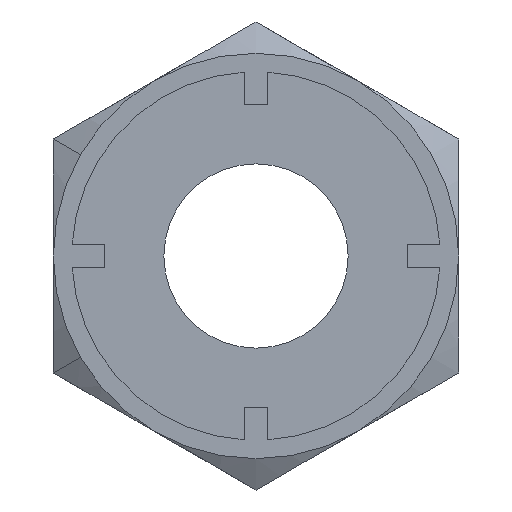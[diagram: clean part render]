
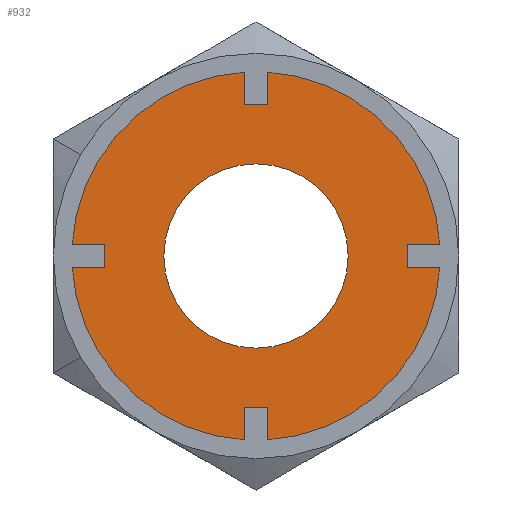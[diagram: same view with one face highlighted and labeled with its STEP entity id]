
A CAD part, left-side view. The second image highlights one B-rep face of the part: STEP entity #932.
In plain terms, the highlighted planar face has unit normal (-1, 0, 0).
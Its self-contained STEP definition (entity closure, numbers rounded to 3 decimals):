
#130=CARTESIAN_POINT('',(-19.0,0.,5.0));
#131=VERTEX_POINT('',#130);
#140=CARTESIAN_POINT('',(-19.0,5.0,0.0));
#141=VERTEX_POINT('',#140);
#142=CARTESIAN_POINT('',(-19.0,0.0,0.0));
#143=DIRECTION('',(1.0,0.0,0.0));
#144=DIRECTION('',(0.0,1.0,0.0));
#145=AXIS2_PLACEMENT_3D('',#142,#143,#144);
#146=CIRCLE('',#145,5.0);
#147=EDGE_CURVE('',#141,#131,#146,.T.);
#332=CARTESIAN_POINT('',(-19.0,0.,-5.0));
#333=VERTEX_POINT('',#332);
#342=CARTESIAN_POINT('',(-19.0,-5.0,0.));
#343=VERTEX_POINT('',#342);
#344=CARTESIAN_POINT('',(-19.0,0.0,0.0));
#345=DIRECTION('',(1.0,0.0,0.0));
#346=DIRECTION('',(0.0,1.0,0.0));
#347=AXIS2_PLACEMENT_3D('',#344,#345,#346);
#348=CIRCLE('',#347,5.0);
#349=EDGE_CURVE('',#343,#333,#348,.T.);
#383=CARTESIAN_POINT('',(-19.0,0.0,0.0));
#384=DIRECTION('',(1.0,0.0,0.0));
#385=DIRECTION('',(0.0,1.0,0.0));
#386=AXIS2_PLACEMENT_3D('',#383,#384,#385);
#387=CIRCLE('',#386,5.0);
#388=EDGE_CURVE('',#333,#141,#387,.T.);
#400=CARTESIAN_POINT('',(-19.0,9.979,0.65));
#401=VERTEX_POINT('',#400);
#416=CARTESIAN_POINT('',(-19.0,8.2,0.65));
#417=VERTEX_POINT('',#416);
#424=CARTESIAN_POINT('',(-19.0,9.979,0.65));
#425=DIRECTION('',(0.0,-1.0,0.0));
#426=VECTOR('',#425,1.779);
#427=LINE('',#424,#426);
#428=EDGE_CURVE('',#401,#417,#427,.T.);
#438=CARTESIAN_POINT('',(-19.0,9.979,-0.65));
#439=VERTEX_POINT('',#438);
#448=CARTESIAN_POINT('',(-19.0,8.2,-0.65));
#449=VERTEX_POINT('',#448);
#450=CARTESIAN_POINT('',(-19.0,8.2,-0.65));
#451=DIRECTION('',(0.0,1.0,0.0));
#452=VECTOR('',#451,1.779);
#453=LINE('',#450,#452);
#454=EDGE_CURVE('',#449,#439,#453,.T.);
#485=CARTESIAN_POINT('',(-19.0,8.2,0.65));
#486=DIRECTION('',(0.0,0.0,-1.0));
#487=VECTOR('',#486,1.3);
#488=LINE('',#485,#487);
#489=EDGE_CURVE('',#417,#449,#488,.T.);
#502=CARTESIAN_POINT('',(-19.0,-0.65,9.979));
#503=VERTEX_POINT('',#502);
#518=CARTESIAN_POINT('',(-19.0,-0.65,8.2));
#519=VERTEX_POINT('',#518);
#526=CARTESIAN_POINT('',(-19.0,-0.65,9.979));
#527=DIRECTION('',(0.0,0.0,-1.0));
#528=VECTOR('',#527,1.779);
#529=LINE('',#526,#528);
#530=EDGE_CURVE('',#503,#519,#529,.T.);
#540=CARTESIAN_POINT('',(-19.0,0.65,9.979));
#541=VERTEX_POINT('',#540);
#550=CARTESIAN_POINT('',(-19.0,0.65,8.2));
#551=VERTEX_POINT('',#550);
#552=CARTESIAN_POINT('',(-19.0,0.65,8.2));
#553=DIRECTION('',(0.0,0.0,1.0));
#554=VECTOR('',#553,1.779);
#555=LINE('',#552,#554);
#556=EDGE_CURVE('',#551,#541,#555,.T.);
#587=CARTESIAN_POINT('',(-19.0,-0.65,8.2));
#588=DIRECTION('',(0.0,1.0,0.0));
#589=VECTOR('',#588,1.3);
#590=LINE('',#587,#589);
#591=EDGE_CURVE('',#519,#551,#590,.T.);
#604=CARTESIAN_POINT('',(-19.0,-9.979,-0.65));
#605=VERTEX_POINT('',#604);
#620=CARTESIAN_POINT('',(-19.0,-8.2,-0.65));
#621=VERTEX_POINT('',#620);
#628=CARTESIAN_POINT('',(-19.0,-9.979,-0.65));
#629=DIRECTION('',(0.0,1.0,0.0));
#630=VECTOR('',#629,1.779);
#631=LINE('',#628,#630);
#632=EDGE_CURVE('',#605,#621,#631,.T.);
#642=CARTESIAN_POINT('',(-19.0,-9.979,0.65));
#643=VERTEX_POINT('',#642);
#652=CARTESIAN_POINT('',(-19.0,-8.2,0.65));
#653=VERTEX_POINT('',#652);
#654=CARTESIAN_POINT('',(-19.0,-8.2,0.65));
#655=DIRECTION('',(0.0,-1.0,0.0));
#656=VECTOR('',#655,1.779);
#657=LINE('',#654,#656);
#658=EDGE_CURVE('',#653,#643,#657,.T.);
#689=CARTESIAN_POINT('',(-19.0,-8.2,-0.65));
#690=DIRECTION('',(0.0,0.0,1.0));
#691=VECTOR('',#690,1.3);
#692=LINE('',#689,#691);
#693=EDGE_CURVE('',#621,#653,#692,.T.);
#706=CARTESIAN_POINT('',(-19.0,0.65,-9.979));
#707=VERTEX_POINT('',#706);
#722=CARTESIAN_POINT('',(-19.0,0.65,-8.2));
#723=VERTEX_POINT('',#722);
#730=CARTESIAN_POINT('',(-19.0,0.65,-9.979));
#731=DIRECTION('',(0.0,0.0,1.0));
#732=VECTOR('',#731,1.779);
#733=LINE('',#730,#732);
#734=EDGE_CURVE('',#707,#723,#733,.T.);
#744=CARTESIAN_POINT('',(-19.0,-0.65,-9.979));
#745=VERTEX_POINT('',#744);
#754=CARTESIAN_POINT('',(-19.0,-0.65,-8.2));
#755=VERTEX_POINT('',#754);
#756=CARTESIAN_POINT('',(-19.0,-0.65,-8.2));
#757=DIRECTION('',(0.0,0.0,-1.0));
#758=VECTOR('',#757,1.779);
#759=LINE('',#756,#758);
#760=EDGE_CURVE('',#755,#745,#759,.T.);
#791=CARTESIAN_POINT('',(-19.0,0.65,-8.2));
#792=DIRECTION('',(0.0,-1.0,0.0));
#793=VECTOR('',#792,1.3);
#794=LINE('',#791,#793);
#795=EDGE_CURVE('',#723,#755,#794,.T.);
#807=CARTESIAN_POINT('',(-19.0,0.0,0.0));
#808=DIRECTION('',(1.0,0.0,0.0));
#809=DIRECTION('',(0.0,1.0,0.0));
#810=AXIS2_PLACEMENT_3D('',#807,#808,#809);
#811=CIRCLE('',#810,10.0);
#812=EDGE_CURVE('',#605,#745,#811,.T.);
#831=CARTESIAN_POINT('',(-19.0,0.0,0.0));
#832=DIRECTION('',(1.0,0.0,0.0));
#833=DIRECTION('',(0.0,1.0,0.0));
#834=AXIS2_PLACEMENT_3D('',#831,#832,#833);
#835=CIRCLE('',#834,10.0);
#836=EDGE_CURVE('',#503,#643,#835,.T.);
#863=CARTESIAN_POINT('',(-19.0,0.0,0.0));
#864=DIRECTION('',(1.0,0.0,0.0));
#865=DIRECTION('',(0.0,1.0,0.0));
#866=AXIS2_PLACEMENT_3D('',#863,#864,#865);
#867=CIRCLE('',#866,10.0);
#868=EDGE_CURVE('',#707,#439,#867,.T.);
#879=CARTESIAN_POINT('',(-19.0,0.0,0.0));
#880=DIRECTION('',(1.0,0.0,0.0));
#881=DIRECTION('',(0.0,1.0,0.0));
#882=AXIS2_PLACEMENT_3D('',#879,#880,#881);
#883=CIRCLE('',#882,10.0);
#884=EDGE_CURVE('',#401,#541,#883,.T.);
#897=CARTESIAN_POINT('',(-19.0,-10.977,-10.977));
#898=DIRECTION('',(-1.0,0.0,0.0));
#899=DIRECTION('',(0.0,0.0,1.0));
#900=AXIS2_PLACEMENT_3D('',#897,#898,#899);
#901=PLANE('',#900);
#902=ORIENTED_EDGE('',*,*,#428,.T.);
#903=ORIENTED_EDGE('',*,*,#489,.T.);
#904=ORIENTED_EDGE('',*,*,#454,.T.);
#905=ORIENTED_EDGE('',*,*,#868,.F.);
#906=ORIENTED_EDGE('',*,*,#734,.T.);
#907=ORIENTED_EDGE('',*,*,#795,.T.);
#908=ORIENTED_EDGE('',*,*,#760,.T.);
#909=ORIENTED_EDGE('',*,*,#812,.F.);
#910=ORIENTED_EDGE('',*,*,#632,.T.);
#911=ORIENTED_EDGE('',*,*,#693,.T.);
#912=ORIENTED_EDGE('',*,*,#658,.T.);
#913=ORIENTED_EDGE('',*,*,#836,.F.);
#914=ORIENTED_EDGE('',*,*,#530,.T.);
#915=ORIENTED_EDGE('',*,*,#591,.T.);
#916=ORIENTED_EDGE('',*,*,#556,.T.);
#917=ORIENTED_EDGE('',*,*,#884,.F.);
#918=EDGE_LOOP('',(#902,#903,#904,#905,#906,#907,#908,#909,#910,#911,#912,#913,#914,#915,#916,#917));
#919=FACE_OUTER_BOUND('',#918,.T.);
#920=ORIENTED_EDGE('',*,*,#147,.T.);
#921=CARTESIAN_POINT('',(-19.0,0.0,0.0));
#922=DIRECTION('',(1.0,0.0,0.0));
#923=DIRECTION('',(0.0,1.0,0.0));
#924=AXIS2_PLACEMENT_3D('',#921,#922,#923);
#925=CIRCLE('',#924,5.0);
#926=EDGE_CURVE('',#131,#343,#925,.T.);
#927=ORIENTED_EDGE('',*,*,#926,.T.);
#928=ORIENTED_EDGE('',*,*,#349,.T.);
#929=ORIENTED_EDGE('',*,*,#388,.T.);
#930=EDGE_LOOP('',(#920,#927,#928,#929));
#931=FACE_BOUND('',#930,.T.);
#932=ADVANCED_FACE('',(#919,#931),#901,.T.);
